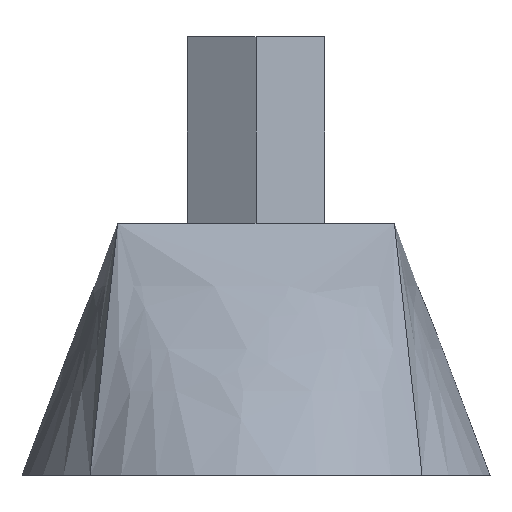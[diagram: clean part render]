
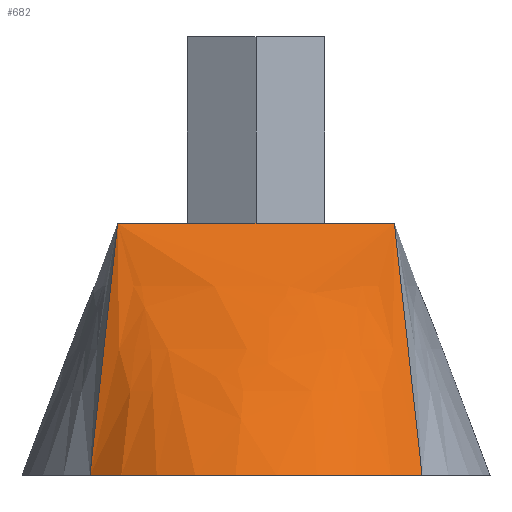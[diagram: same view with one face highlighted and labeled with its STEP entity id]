
A CAD part, left-side view. The second image highlights one B-rep face of the part: STEP entity #682.
In plain terms, the highlighted free-form (B-spline) face has degree [8, 1] with [9, 2] control points.
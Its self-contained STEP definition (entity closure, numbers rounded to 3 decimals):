
#56 = PLANE('',#57);
#57 = AXIS2_PLACEMENT_3D('',#58,#59,#60);
#58 = CARTESIAN_POINT('',(0.,0.,0.));
#59 = DIRECTION('',(0.,0.,1.));
#60 = DIRECTION('',(1.,0.,0.));
#83 = B_SPLINE_SURFACE_WITH_KNOTS('',8,1,(
    (#84,#85)
    ,(#86,#87)
    ,(#88,#89)
    ,(#90,#91)
    ,(#92,#93)
    ,(#94,#95)
    ,(#96,#97)
    ,(#98,#99)
    ,(#100,#101
    )),.UNSPECIFIED.,.F.,.F.,.F.,(9,9),(2,2),(0.,32.5),(0.,1.),
  .PIECEWISE_BEZIER_KNOTS.);
#84 = CARTESIAN_POINT('',(19.509,19.509,0.));
#85 = CARTESIAN_POINT('',(16.25,16.25,29.6));
#86 = CARTESIAN_POINT('',(15.678,23.34,0.));
#87 = CARTESIAN_POINT('',(12.188,16.25,29.6));
#88 = CARTESIAN_POINT('',(10.988,26.311,0.));
#89 = CARTESIAN_POINT('',(8.125,16.25,29.6));
#90 = CARTESIAN_POINT('',(5.664,28.197,0.));
#91 = CARTESIAN_POINT('',(4.063,16.25,29.6));
#92 = CARTESIAN_POINT('',(0.,28.845,0.));
#93 = CARTESIAN_POINT('',(0.,16.25,29.6));
#94 = CARTESIAN_POINT('',(-5.664,28.197,0.));
#95 = CARTESIAN_POINT('',(-4.063,16.25,29.6));
#96 = CARTESIAN_POINT('',(-10.988,26.311,0.));
#97 = CARTESIAN_POINT('',(-8.125,16.25,29.6));
#98 = CARTESIAN_POINT('',(-15.678,23.34,0.));
#99 = CARTESIAN_POINT('',(-12.188,16.25,29.6));
#100 = CARTESIAN_POINT('',(-19.509,19.509,0.));
#101 = CARTESIAN_POINT('',(-16.25,16.25,29.6));
#125 = PLANE('',#126);
#126 = AXIS2_PLACEMENT_3D('',#127,#128,#129);
#127 = CARTESIAN_POINT('',(16.25,0.,29.6));
#128 = DIRECTION('',(0.,0.,1.));
#129 = DIRECTION('',(-0.894,0.447,0.));
#179 = VERTEX_POINT('',#180);
#180 = CARTESIAN_POINT('',(-19.509,19.509,0.));
#201 = EDGE_CURVE('',#179,#202,#204,.T.);
#202 = VERTEX_POINT('',#203);
#203 = CARTESIAN_POINT('',(-19.509,-19.509,0.));
#204 = SURFACE_CURVE('',#205,(#210,#217),.PCURVE_S1.);
#205 = CIRCLE('',#206,27.59);
#206 = AXIS2_PLACEMENT_3D('',#207,#208,#209);
#207 = CARTESIAN_POINT('',(0.,0.,0.));
#208 = DIRECTION('',(0.,0.,1.));
#209 = DIRECTION('',(1.,0.,0.));
#210 = PCURVE('',#56,#211);
#211 = DEFINITIONAL_REPRESENTATION('',(#212),#216);
#212 = CIRCLE('',#213,27.59);
#213 = AXIS2_PLACEMENT_2D('',#214,#215);
#214 = CARTESIAN_POINT('',(0.,0.));
#215 = DIRECTION('',(1.,0.));
#216 = ( GEOMETRIC_REPRESENTATION_CONTEXT(2) 
PARAMETRIC_REPRESENTATION_CONTEXT() REPRESENTATION_CONTEXT('2D SPACE',''
  ) );
#217 = PCURVE('',#218,#237);
#218 = B_SPLINE_SURFACE_WITH_KNOTS('',8,1,(
    (#219,#220)
    ,(#221,#222)
    ,(#223,#224)
    ,(#225,#226)
    ,(#227,#228)
    ,(#229,#230)
    ,(#231,#232)
    ,(#233,#234)
    ,(#235,#236
    )),.UNSPECIFIED.,.F.,.F.,.F.,(9,9),(2,2),(0.,32.5),(0.,1.),
  .PIECEWISE_BEZIER_KNOTS.);
#219 = CARTESIAN_POINT('',(-19.509,19.509,0.));
#220 = CARTESIAN_POINT('',(-16.25,16.25,29.6));
#221 = CARTESIAN_POINT('',(-23.34,15.678,0.));
#222 = CARTESIAN_POINT('',(-16.25,12.188,29.6));
#223 = CARTESIAN_POINT('',(-26.311,10.988,0.));
#224 = CARTESIAN_POINT('',(-16.25,8.125,29.6));
#225 = CARTESIAN_POINT('',(-28.197,5.664,0.));
#226 = CARTESIAN_POINT('',(-16.25,4.063,29.6));
#227 = CARTESIAN_POINT('',(-28.845,0.,0.));
#228 = CARTESIAN_POINT('',(-16.25,0.,29.6));
#229 = CARTESIAN_POINT('',(-28.197,-5.664,0.));
#230 = CARTESIAN_POINT('',(-16.25,-4.063,29.6));
#231 = CARTESIAN_POINT('',(-26.311,-10.988,0.));
#232 = CARTESIAN_POINT('',(-16.25,-8.125,29.6));
#233 = CARTESIAN_POINT('',(-23.34,-15.678,0.));
#234 = CARTESIAN_POINT('',(-16.25,-12.188,29.6));
#235 = CARTESIAN_POINT('',(-19.509,-19.509,0.));
#236 = CARTESIAN_POINT('',(-16.25,-16.25,29.6));
#237 = DEFINITIONAL_REPRESENTATION('',(#238),#241);
#238 = B_SPLINE_CURVE_WITH_KNOTS('',1,(#239,#240),.UNSPECIFIED.,.F.,.F.,
  (2,2),(2.356,3.927),.PIECEWISE_BEZIER_KNOTS.);
#239 = CARTESIAN_POINT('',(0.,0.));
#240 = CARTESIAN_POINT('',(32.5,0.));
#241 = ( GEOMETRIC_REPRESENTATION_CONTEXT(2) 
PARAMETRIC_REPRESENTATION_CONTEXT() REPRESENTATION_CONTEXT('2D SPACE',''
  ) );
#260 = B_SPLINE_SURFACE_WITH_KNOTS('',8,1,(
    (#261,#262)
    ,(#263,#264)
    ,(#265,#266)
    ,(#267,#268)
    ,(#269,#270)
    ,(#271,#272)
    ,(#273,#274)
    ,(#275,#276)
    ,(#277,#278
    )),.UNSPECIFIED.,.F.,.F.,.F.,(9,9),(2,2),(0.,32.5),(0.,1.),
  .PIECEWISE_BEZIER_KNOTS.);
#261 = CARTESIAN_POINT('',(-19.509,-19.509,0.));
#262 = CARTESIAN_POINT('',(-16.25,-16.25,29.6));
#263 = CARTESIAN_POINT('',(-15.678,-23.34,0.));
#264 = CARTESIAN_POINT('',(-12.188,-16.25,29.6));
#265 = CARTESIAN_POINT('',(-10.988,-26.311,0.));
#266 = CARTESIAN_POINT('',(-8.125,-16.25,29.6));
#267 = CARTESIAN_POINT('',(-5.664,-28.197,0.));
#268 = CARTESIAN_POINT('',(-4.063,-16.25,29.6));
#269 = CARTESIAN_POINT('',(0.,-28.845,0.));
#270 = CARTESIAN_POINT('',(0.,-16.25,29.6));
#271 = CARTESIAN_POINT('',(5.664,-28.197,0.));
#272 = CARTESIAN_POINT('',(4.063,-16.25,29.6));
#273 = CARTESIAN_POINT('',(10.988,-26.311,0.));
#274 = CARTESIAN_POINT('',(8.125,-16.25,29.6));
#275 = CARTESIAN_POINT('',(15.678,-23.34,0.));
#276 = CARTESIAN_POINT('',(12.188,-16.25,29.6));
#277 = CARTESIAN_POINT('',(19.509,-19.509,0.));
#278 = CARTESIAN_POINT('',(16.25,-16.25,29.6));
#345 = EDGE_CURVE('',#179,#346,#348,.T.);
#346 = VERTEX_POINT('',#347);
#347 = CARTESIAN_POINT('',(-16.25,16.25,29.6));
#348 = SURFACE_CURVE('',#349,(#352,#359),.PCURVE_S1.);
#349 = B_SPLINE_CURVE_WITH_KNOTS('',1,(#350,#351),.UNSPECIFIED.,.F.,.F.,
  (2,2),(0.,1.),.PIECEWISE_BEZIER_KNOTS.);
#350 = CARTESIAN_POINT('',(-19.509,19.509,0.));
#351 = CARTESIAN_POINT('',(-16.25,16.25,29.6));
#352 = PCURVE('',#83,#353);
#353 = DEFINITIONAL_REPRESENTATION('',(#354),#358);
#354 = LINE('',#355,#356);
#355 = CARTESIAN_POINT('',(32.5,0.));
#356 = VECTOR('',#357,1.);
#357 = DIRECTION('',(0.,1.));
#358 = ( GEOMETRIC_REPRESENTATION_CONTEXT(2) 
PARAMETRIC_REPRESENTATION_CONTEXT() REPRESENTATION_CONTEXT('2D SPACE',''
  ) );
#359 = PCURVE('',#218,#360);
#360 = DEFINITIONAL_REPRESENTATION('',(#361),#365);
#361 = LINE('',#362,#363);
#362 = CARTESIAN_POINT('',(0.,0.));
#363 = VECTOR('',#364,1.);
#364 = DIRECTION('',(0.,1.));
#365 = ( GEOMETRIC_REPRESENTATION_CONTEXT(2) 
PARAMETRIC_REPRESENTATION_CONTEXT() REPRESENTATION_CONTEXT('2D SPACE',''
  ) );
#394 = EDGE_CURVE('',#346,#395,#397,.T.);
#395 = VERTEX_POINT('',#396);
#396 = CARTESIAN_POINT('',(-16.25,-16.25,29.6));
#397 = SURFACE_CURVE('',#398,(#402,#409),.PCURVE_S1.);
#398 = LINE('',#399,#400);
#399 = CARTESIAN_POINT('',(-16.25,16.25,29.6));
#400 = VECTOR('',#401,1.);
#401 = DIRECTION('',(0.,-1.,0.));
#402 = PCURVE('',#125,#403);
#403 = DEFINITIONAL_REPRESENTATION('',(#404),#408);
#404 = LINE('',#405,#406);
#405 = CARTESIAN_POINT('',(36.336,0.));
#406 = VECTOR('',#407,1.);
#407 = DIRECTION('',(-0.447,0.894));
#408 = ( GEOMETRIC_REPRESENTATION_CONTEXT(2) 
PARAMETRIC_REPRESENTATION_CONTEXT() REPRESENTATION_CONTEXT('2D SPACE',''
  ) );
#409 = PCURVE('',#218,#410);
#410 = DEFINITIONAL_REPRESENTATION('',(#411),#415);
#411 = LINE('',#412,#413);
#412 = CARTESIAN_POINT('',(0.,1.));
#413 = VECTOR('',#414,1.);
#414 = DIRECTION('',(1.,0.));
#415 = ( GEOMETRIC_REPRESENTATION_CONTEXT(2) 
PARAMETRIC_REPRESENTATION_CONTEXT() REPRESENTATION_CONTEXT('2D SPACE',''
  ) );
#663 = EDGE_CURVE('',#202,#395,#664,.T.);
#664 = SURFACE_CURVE('',#665,(#668,#675),.PCURVE_S1.);
#665 = B_SPLINE_CURVE_WITH_KNOTS('',1,(#666,#667),.UNSPECIFIED.,.F.,.F.,
  (2,2),(0.,1.),.PIECEWISE_BEZIER_KNOTS.);
#666 = CARTESIAN_POINT('',(-19.509,-19.509,0.));
#667 = CARTESIAN_POINT('',(-16.25,-16.25,29.6));
#668 = PCURVE('',#260,#669);
#669 = DEFINITIONAL_REPRESENTATION('',(#670),#674);
#670 = LINE('',#671,#672);
#671 = CARTESIAN_POINT('',(0.,0.));
#672 = VECTOR('',#673,1.);
#673 = DIRECTION('',(0.,1.));
#674 = ( GEOMETRIC_REPRESENTATION_CONTEXT(2) 
PARAMETRIC_REPRESENTATION_CONTEXT() REPRESENTATION_CONTEXT('2D SPACE',''
  ) );
#675 = PCURVE('',#218,#676);
#676 = DEFINITIONAL_REPRESENTATION('',(#677),#681);
#677 = LINE('',#678,#679);
#678 = CARTESIAN_POINT('',(32.5,0.));
#679 = VECTOR('',#680,1.);
#680 = DIRECTION('',(0.,1.));
#681 = ( GEOMETRIC_REPRESENTATION_CONTEXT(2) 
PARAMETRIC_REPRESENTATION_CONTEXT() REPRESENTATION_CONTEXT('2D SPACE',''
  ) );
#682 = ADVANCED_FACE('',(#683),#218,.T.);
#683 = FACE_BOUND('',#684,.T.);
#684 = EDGE_LOOP('',(#685,#686,#687,#688));
#685 = ORIENTED_EDGE('',*,*,#201,.T.);
#686 = ORIENTED_EDGE('',*,*,#663,.T.);
#687 = ORIENTED_EDGE('',*,*,#394,.F.);
#688 = ORIENTED_EDGE('',*,*,#345,.F.);
